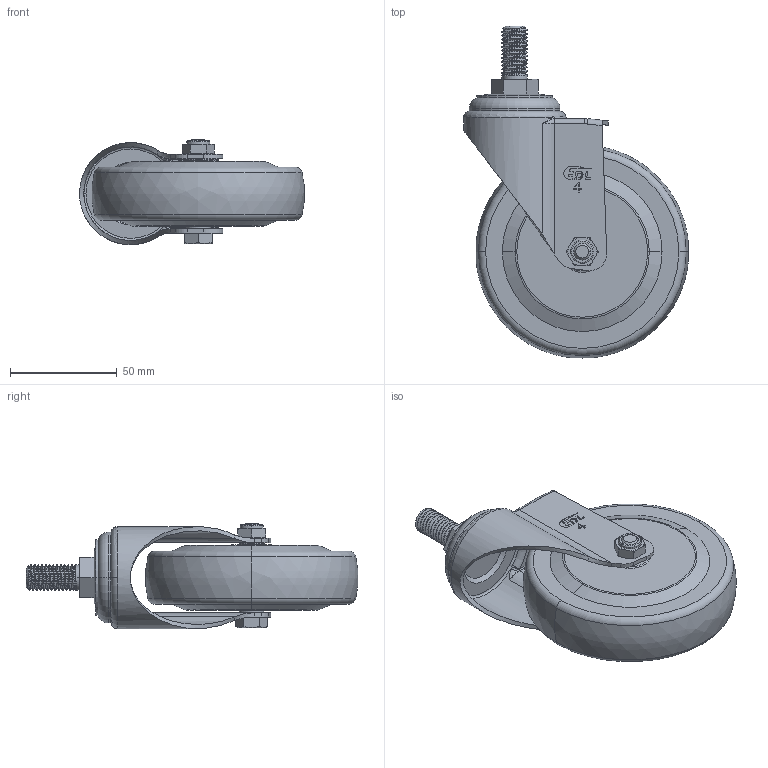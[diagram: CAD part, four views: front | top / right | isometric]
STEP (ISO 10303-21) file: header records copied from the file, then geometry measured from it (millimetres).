
FILE_DESCRIPTION((''),'2;1');
FILE_NAME('S34734_ASM','2021-07-24T',('lenovo'),(''),'PRO/ENGINEER BY PARAMETRIC TECHNOLOGY CORPORATION, 2010280','PRO/ENGINEER BY PARAMETRIC TECHNOLOGY CORPORATION, 2010280','');
FILE_SCHEMA(('CONFIG_CONTROL_DESIGN'));
Length unit declared in the file: millimetre
Products named in the file (6): S340-23; S344-11; 364-964; S340-33; S340-34; S34734_ASM
Assembly tree (5 placements, depth 2):
  S34734_ASM
    S340-23
    S344-11
    364-964
    S340-33
    S340-34
Bounding box: 105.56 x 155.86 x 49.45 mm (x, y, z)
Volume: 243184.7 mm3; surface area: 48422.3 mm2
Topology: 5 solids, 5 shells, 276 faces, 674 edges, 424 vertices
Faces by surface type: plane 103, cylinder 77, torus 38, bspline 32, cone 26
Entity records: 12411 total; most frequent: CARTESIAN_POINT 5993, ORIENTED_EDGE 1348, DIRECTION 1246, EDGE_CURVE 674, AXIS2_PLACEMENT_3D 465, VERTEX_POINT 424, VECTOR 316, LINE 316
